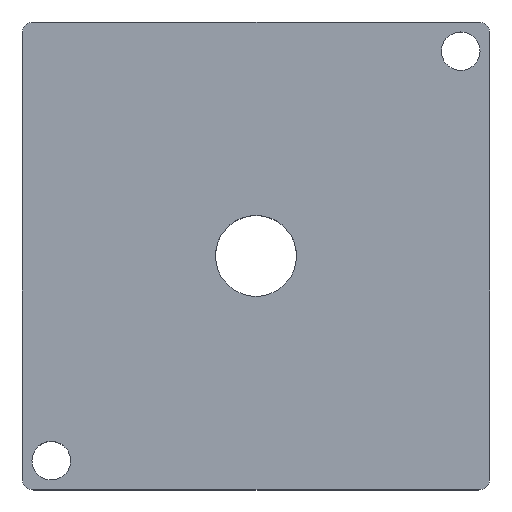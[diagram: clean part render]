
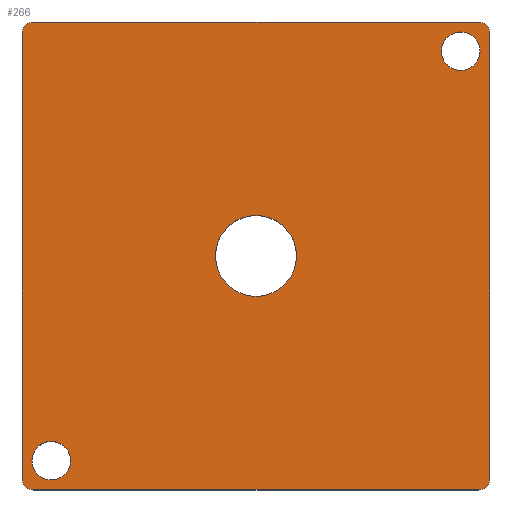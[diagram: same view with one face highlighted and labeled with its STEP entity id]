
A CAD part, top view. The second image highlights one B-rep face of the part: STEP entity #266.
In plain terms, the highlighted planar face has unit normal (0, 0, 1).
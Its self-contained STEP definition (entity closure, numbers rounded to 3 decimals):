
#18=FACE_BOUND('',#56,.T.);
#19=FACE_BOUND('',#57,.T.);
#20=FACE_BOUND('',#58,.T.);
#26=PLANE('',#316);
#39=FACE_OUTER_BOUND('',#55,.T.);
#55=EDGE_LOOP('',(#233,#234,#235,#236,#237,#238,#239,#240));
#56=EDGE_LOOP('',(#241,#242));
#57=EDGE_LOOP('',(#243,#244));
#58=EDGE_LOOP('',(#245,#246));
#63=LINE('',#413,#82);
#69=LINE('',#440,#88);
#76=LINE('',#469,#95);
#77=LINE('',#471,#96);
#82=VECTOR('',#331,10.);
#88=VECTOR('',#357,10.);
#95=VECTOR('',#392,10.);
#96=VECTOR('',#395,10.);
#97=CIRCLE('',#288,2.);
#105=CIRCLE('',#299,2.);
#106=CIRCLE('',#302,2.);
#107=CIRCLE('',#304,2.);
#108=CIRCLE('',#306,6.918);
#109=CIRCLE('',#307,6.918);
#110=CIRCLE('',#309,3.3);
#111=CIRCLE('',#310,3.3);
#112=CIRCLE('',#312,3.3);
#113=CIRCLE('',#313,3.3);
#114=VERTEX_POINT('',#400);
#115=VERTEX_POINT('',#401);
#119=VERTEX_POINT('',#411);
#128=VERTEX_POINT('',#433);
#129=VERTEX_POINT('',#434);
#130=VERTEX_POINT('',#439);
#131=VERTEX_POINT('',#443);
#132=VERTEX_POINT('',#447);
#133=VERTEX_POINT('',#451);
#134=VERTEX_POINT('',#452);
#135=VERTEX_POINT('',#457);
#136=VERTEX_POINT('',#458);
#137=VERTEX_POINT('',#463);
#138=VERTEX_POINT('',#464);
#139=EDGE_CURVE('',#114,#115,#97,.T.);
#145=EDGE_CURVE('',#119,#114,#63,.T.);
#155=EDGE_CURVE('',#128,#129,#105,.T.);
#158=EDGE_CURVE('',#129,#130,#69,.T.);
#160=EDGE_CURVE('',#130,#131,#106,.T.);
#162=EDGE_CURVE('',#132,#119,#107,.T.);
#164=EDGE_CURVE('',#133,#134,#108,.T.);
#165=EDGE_CURVE('',#134,#133,#109,.T.);
#167=EDGE_CURVE('',#135,#136,#110,.T.);
#168=EDGE_CURVE('',#136,#135,#111,.T.);
#170=EDGE_CURVE('',#137,#138,#112,.T.);
#171=EDGE_CURVE('',#138,#137,#113,.T.);
#173=EDGE_CURVE('',#115,#128,#76,.T.);
#174=EDGE_CURVE('',#131,#132,#77,.T.);
#233=ORIENTED_EDGE('',*,*,#139,.F.);
#234=ORIENTED_EDGE('',*,*,#145,.F.);
#235=ORIENTED_EDGE('',*,*,#162,.F.);
#236=ORIENTED_EDGE('',*,*,#174,.F.);
#237=ORIENTED_EDGE('',*,*,#160,.F.);
#238=ORIENTED_EDGE('',*,*,#158,.F.);
#239=ORIENTED_EDGE('',*,*,#155,.F.);
#240=ORIENTED_EDGE('',*,*,#173,.F.);
#241=ORIENTED_EDGE('',*,*,#164,.T.);
#242=ORIENTED_EDGE('',*,*,#165,.T.);
#243=ORIENTED_EDGE('',*,*,#167,.T.);
#244=ORIENTED_EDGE('',*,*,#168,.T.);
#245=ORIENTED_EDGE('',*,*,#170,.T.);
#246=ORIENTED_EDGE('',*,*,#171,.T.);
#266=ADVANCED_FACE('',(#39,#18,#19,#20),#26,.T.);
#288=AXIS2_PLACEMENT_3D('',#402,#321,#322);
#299=AXIS2_PLACEMENT_3D('',#435,#351,#352);
#302=AXIS2_PLACEMENT_3D('',#444,#361,#362);
#304=AXIS2_PLACEMENT_3D('',#448,#366,#367);
#306=AXIS2_PLACEMENT_3D('',#453,#371,#372);
#307=AXIS2_PLACEMENT_3D('',#454,#373,#374);
#309=AXIS2_PLACEMENT_3D('',#459,#378,#379);
#310=AXIS2_PLACEMENT_3D('',#460,#380,#381);
#312=AXIS2_PLACEMENT_3D('',#465,#385,#386);
#313=AXIS2_PLACEMENT_3D('',#466,#387,#388);
#316=AXIS2_PLACEMENT_3D('',#472,#396,#397);
#321=DIRECTION('center_axis',(0.,0.,-1.));
#322=DIRECTION('ref_axis',(-0.707,-0.707,0.));
#331=DIRECTION('',(-1.,0.,0.));
#351=DIRECTION('center_axis',(0.,0.,-1.));
#352=DIRECTION('ref_axis',(-0.707,0.707,0.));
#357=DIRECTION('',(1.,0.,0.));
#361=DIRECTION('center_axis',(0.,0.,-1.));
#362=DIRECTION('ref_axis',(0.707,0.707,0.));
#366=DIRECTION('center_axis',(0.,0.,-1.));
#367=DIRECTION('ref_axis',(0.707,-0.707,0.));
#371=DIRECTION('center_axis',(0.,0.,-1.));
#372=DIRECTION('ref_axis',(1.,0.,0.));
#373=DIRECTION('center_axis',(0.,0.,-1.));
#374=DIRECTION('ref_axis',(1.,0.,0.));
#378=DIRECTION('center_axis',(0.,0.,-1.));
#379=DIRECTION('ref_axis',(1.,0.,0.));
#380=DIRECTION('center_axis',(0.,0.,-1.));
#381=DIRECTION('ref_axis',(1.,0.,0.));
#385=DIRECTION('center_axis',(0.,0.,-1.));
#386=DIRECTION('ref_axis',(1.,0.,0.));
#387=DIRECTION('center_axis',(0.,0.,-1.));
#388=DIRECTION('ref_axis',(1.,0.,0.));
#392=DIRECTION('',(0.,1.,0.));
#395=DIRECTION('',(0.,-1.,0.));
#396=DIRECTION('center_axis',(0.,0.,1.));
#397=DIRECTION('ref_axis',(1.,0.,0.));
#400=CARTESIAN_POINT('',(-8.12,-61.886,8.));
#401=CARTESIAN_POINT('',(-10.12,-59.886,8.));
#402=CARTESIAN_POINT('Origin',(-8.12,-59.886,8.));
#411=CARTESIAN_POINT('',(67.88,-61.886,8.));
#413=CARTESIAN_POINT('',(-10.12,-61.886,8.));
#433=CARTESIAN_POINT('',(-10.12,16.114,8.));
#434=CARTESIAN_POINT('',(-8.12,18.114,8.));
#435=CARTESIAN_POINT('Origin',(-8.12,16.114,8.));
#439=CARTESIAN_POINT('',(67.88,18.114,8.));
#440=CARTESIAN_POINT('',(69.88,18.114,8.));
#443=CARTESIAN_POINT('',(69.88,16.114,8.));
#444=CARTESIAN_POINT('Origin',(67.88,16.114,8.));
#447=CARTESIAN_POINT('',(69.88,-59.886,8.));
#448=CARTESIAN_POINT('Origin',(67.88,-59.886,8.));
#451=CARTESIAN_POINT('',(36.798,-21.886,8.));
#452=CARTESIAN_POINT('',(22.963,-21.886,8.));
#453=CARTESIAN_POINT('Origin',(29.88,-21.886,8.));
#454=CARTESIAN_POINT('Origin',(29.88,-21.886,8.));
#457=CARTESIAN_POINT('',(-1.82,-56.886,8.));
#458=CARTESIAN_POINT('',(-8.42,-56.886,8.));
#459=CARTESIAN_POINT('Origin',(-5.12,-56.886,8.));
#460=CARTESIAN_POINT('Origin',(-5.12,-56.886,8.));
#463=CARTESIAN_POINT('',(68.18,13.114,8.));
#464=CARTESIAN_POINT('',(61.58,13.114,8.));
#465=CARTESIAN_POINT('Origin',(64.88,13.114,8.));
#466=CARTESIAN_POINT('Origin',(64.88,13.114,8.));
#469=CARTESIAN_POINT('',(-10.12,18.114,8.));
#471=CARTESIAN_POINT('',(69.88,-61.886,8.));
#472=CARTESIAN_POINT('Origin',(29.88,-21.886,8.));
